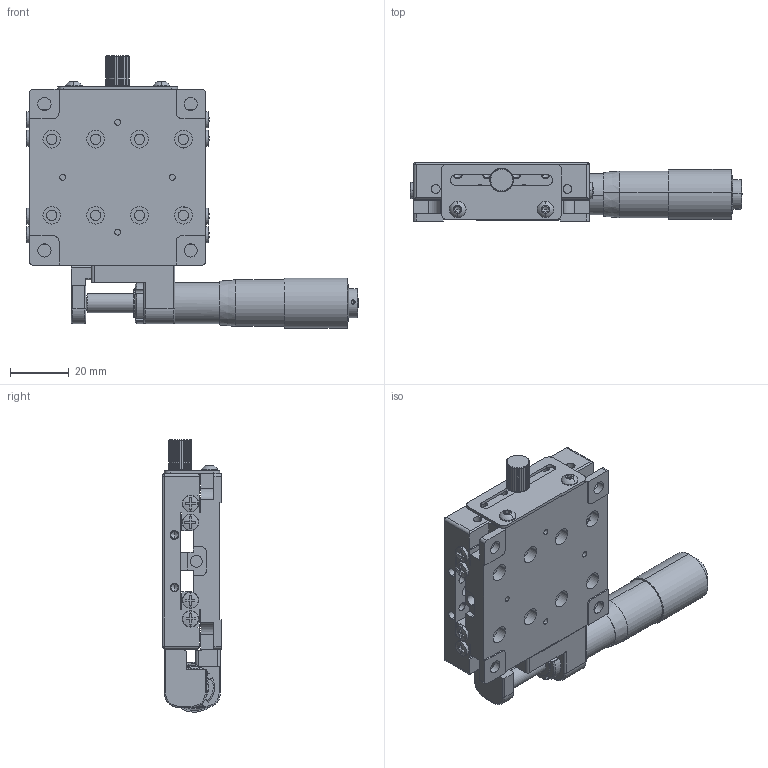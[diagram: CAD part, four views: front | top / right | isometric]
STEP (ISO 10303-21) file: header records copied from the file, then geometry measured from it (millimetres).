
FILE_DESCRIPTION (( 'STEP AP203' ), '1' );
FILE_NAME ('M-TSSJ60X-10-BL-NOB.STEP', '2019-11-13T02:28:20', ( '匠星' ), ( '' ), 'SwSTEP 2.0', 'SolidWorks 2019', '' );
FILE_SCHEMA (( 'CONFIG_CONTROL_DESIGN' ));
Length unit declared in the file: millimetre
Products named in the file (1): M-TSSJ60X-10-BL-NOB
Bounding box: 113.46 x 20 x 93.07 mm (x, y, z)
Volume: 74530.6 mm3; surface area: 38696.6 mm2
Topology: 7 solids, 16 shells, 1184 faces, 2951 edges, 1823 vertices
Faces by surface type: plane 541, cylinder 441, cone 142, torus 36, bspline 16, sphere 8
Entity records: 35337 total; most frequent: CARTESIAN_POINT 7084, DIRECTION 6033, ORIENTED_EDGE 5714, EDGE_CURVE 2857, AXIS2_PLACEMENT_3D 2263, VERTEX_POINT 1823, VECTOR 1507, LINE 1507
